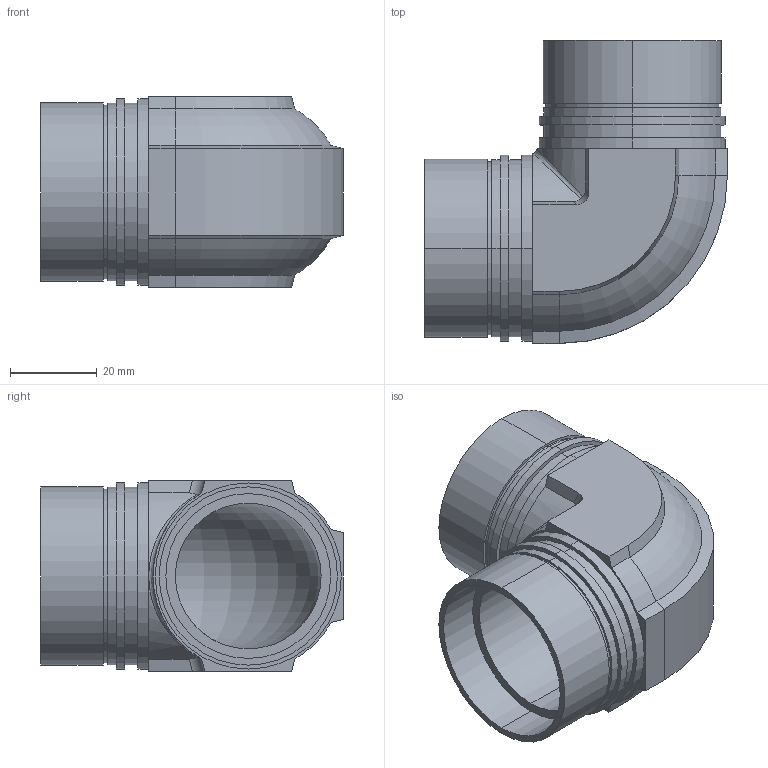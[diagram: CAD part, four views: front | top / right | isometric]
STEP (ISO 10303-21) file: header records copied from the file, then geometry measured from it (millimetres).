
FILE_DESCRIPTION (( 'STEP AP203' ), '1' );
FILE_NAME ('70-381UE-P.STEP', '2012-10-29T04:44:58', ( 'tsuchida' ), ( 'Microsoft' ), 'SwSTEP 2.0', 'SolidWorks 2012', '' );
FILE_SCHEMA (( 'CONFIG_CONTROL_DESIGN' ));
Length unit declared in the file: millimetre
Products named in the file (1): 70-381UE-P
Bounding box: 70 x 70 x 44 mm (x, y, z)
Volume: 45159.8 mm3; surface area: 27479 mm2
Topology: 1 solids, 1 shells, 86 faces, 193 edges, 124 vertices
Faces by surface type: cylinder 45, plane 33, cone 4, torus 3, bspline 1
Entity records: 2603 total; most frequent: CARTESIAN_POINT 560, DIRECTION 434, ORIENTED_EDGE 386, EDGE_CURVE 193, AXIS2_PLACEMENT_3D 172, VERTEX_POINT 124, EDGE_LOOP 103, VECTOR 90
